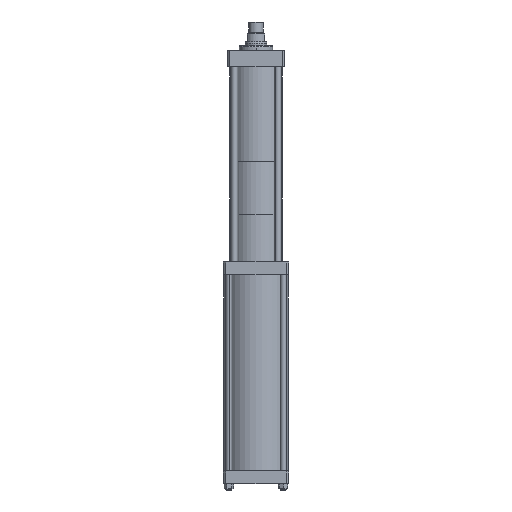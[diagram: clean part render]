
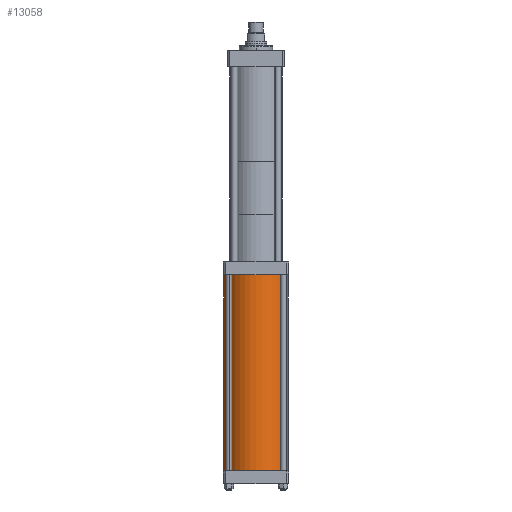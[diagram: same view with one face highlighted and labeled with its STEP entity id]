
A CAD part, front view. The second image highlights one B-rep face of the part: STEP entity #13058.
In plain terms, the highlighted cylindrical face has radius 67.5 mm (diameter 135 mm), a partial arc.
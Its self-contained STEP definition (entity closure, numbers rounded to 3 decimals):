
#553 = DIRECTION ( 'NONE',  ( -1., 0., 0. ) ) ;
#1622 = DIRECTION ( 'NONE',  ( 0., 0., -1. ) ) ;
#1677 = EDGE_CURVE ( 'NONE', #10847, #11754, #7577, .T. ) ;
#1780 = EDGE_CURVE ( 'NONE', #11754, #5464, #13996, .T. ) ;
#1825 = CYLINDRICAL_SURFACE ( 'NONE', #13048, 67.5 ) ;
#1913 = CARTESIAN_POINT ( 'NONE',  ( 0., 0., 205. ) ) ;
#1968 = VECTOR ( 'NONE', #1622, 1000. ) ;
#3250 = ORIENTED_EDGE ( 'NONE', *, *, #11473, .F. ) ;
#3919 = ORIENTED_EDGE ( 'NONE', *, *, #17886, .F. ) ;
#4151 = EDGE_LOOP ( 'NONE', ( #3919, #3250, #9932, #11678 ) ) ;
#4517 = CARTESIAN_POINT ( 'NONE',  ( -67.5, 0., -205. ) ) ;
#4662 = CIRCLE ( 'NONE', #10434, 67.5 ) ;
#4966 = DIRECTION ( 'NONE',  ( 1., 0., 0. ) ) ;
#5464 = VERTEX_POINT ( 'NONE', #8936 ) ;
#6233 = CARTESIAN_POINT ( 'NONE',  ( -67.5, 0., 205. ) ) ;
#7227 = LINE ( 'NONE', #16834, #1968 ) ;
#7281 = VERTEX_POINT ( 'NONE', #9804 ) ;
#7509 = FACE_OUTER_BOUND ( 'NONE', #4151, .T. ) ;
#7577 = LINE ( 'NONE', #6233, #17463 ) ;
#7853 = DIRECTION ( 'NONE',  ( 0., 0., 1. ) ) ;
#8894 = CARTESIAN_POINT ( 'NONE',  ( 0., 0., 205. ) ) ;
#8936 = CARTESIAN_POINT ( 'NONE',  ( 67.5, 0., -205. ) ) ;
#9804 = CARTESIAN_POINT ( 'NONE',  ( 67.5, 0., 205. ) ) ;
#9932 = ORIENTED_EDGE ( 'NONE', *, *, #1677, .T. ) ;
#10163 = DIRECTION ( 'NONE',  ( 1., 0., 0. ) ) ;
#10222 = AXIS2_PLACEMENT_3D ( 'NONE', #13201, #7853, #4966 ) ;
#10434 = AXIS2_PLACEMENT_3D ( 'NONE', #8894, #15781, #10163 ) ;
#10847 = VERTEX_POINT ( 'NONE', #16807 ) ;
#11473 = EDGE_CURVE ( 'NONE', #10847, #7281, #4662, .T. ) ;
#11678 = ORIENTED_EDGE ( 'NONE', *, *, #1780, .T. ) ;
#11748 = DIRECTION ( 'NONE',  ( 0., 0., -1. ) ) ;
#11754 = VERTEX_POINT ( 'NONE', #4517 ) ;
#12953 = DIRECTION ( 'NONE',  ( 0., 0., -1. ) ) ;
#13048 = AXIS2_PLACEMENT_3D ( 'NONE', #1913, #12953, #553 ) ;
#13058 = ADVANCED_FACE ( 'NONE', ( #7509 ), #1825, .T. ) ;
#13201 = CARTESIAN_POINT ( 'NONE',  ( 0., 0., -205. ) ) ;
#13996 = CIRCLE ( 'NONE', #10222, 67.5 ) ;
#15781 = DIRECTION ( 'NONE',  ( 0., 0., 1. ) ) ;
#16807 = CARTESIAN_POINT ( 'NONE',  ( -67.5, 0., 205. ) ) ;
#16834 = CARTESIAN_POINT ( 'NONE',  ( 67.5, 0., 205. ) ) ;
#17463 = VECTOR ( 'NONE', #11748, 1000. ) ;
#17886 = EDGE_CURVE ( 'NONE', #7281, #5464, #7227, .T. ) ;
